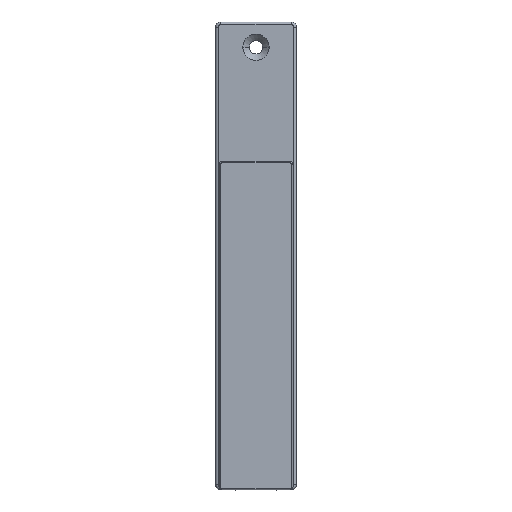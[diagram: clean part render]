
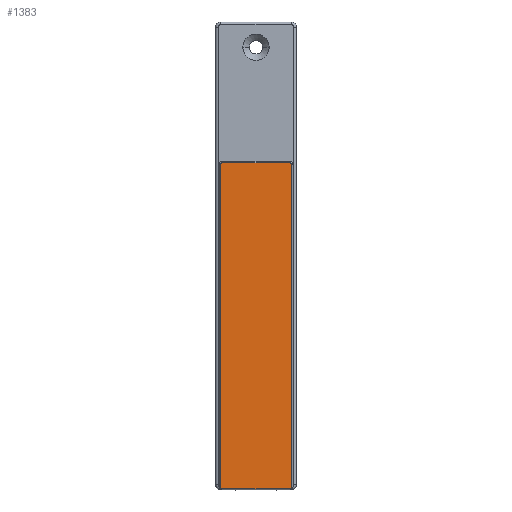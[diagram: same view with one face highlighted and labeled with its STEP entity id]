
A CAD part, top view. The second image highlights one B-rep face of the part: STEP entity #1383.
In plain terms, the highlighted planar face has unit normal (0, 0, 1) as drawn and (-1, 0, 0) by its records, which use the part's own axes.
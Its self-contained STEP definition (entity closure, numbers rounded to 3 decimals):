
#147 = CARTESIAN_POINT ( 'NONE',  ( -5., -107.5, 14. ) ) ;
#294 = CARTESIAN_POINT ( 'NONE',  ( -5., -108., 13.5 ) ) ;
#313 = CIRCLE ( 'NONE', #2254, 0.5 ) ;
#362 = CARTESIAN_POINT ( 'NONE',  ( -5., -107.5, 13.5 ) ) ;
#458 = CARTESIAN_POINT ( 'NONE',  ( -5., -107.5, -14. ) ) ;
#484 = CARTESIAN_POINT ( 'NONE',  ( -5., 20.5, 14. ) ) ;
#494 = ORIENTED_EDGE ( 'NONE', *, *, #3587, .T. ) ;
#760 = DIRECTION ( 'NONE',  ( -1., 0., 0. ) ) ;
#932 = DIRECTION ( 'NONE',  ( 0., 0., -1. ) ) ;
#1024 = DIRECTION ( 'NONE',  ( -1., 0., 0. ) ) ;
#1210 = EDGE_CURVE ( 'NONE', #9558, #6713, #9115, .T. ) ;
#1383 = ADVANCED_FACE ( 'NONE', ( #5962 ), #2985, .T. ) ;
#1576 = DIRECTION ( 'NONE',  ( 0., 1., 0. ) ) ;
#1666 = VERTEX_POINT ( 'NONE', #1767 ) ;
#1767 = CARTESIAN_POINT ( 'NONE',  ( -5., 20.5, -14. ) ) ;
#1769 = DIRECTION ( 'NONE',  ( 0., 0., 1. ) ) ;
#1915 = LINE ( 'NONE', #294, #2519 ) ;
#1982 = VECTOR ( 'NONE', #1576, 1000. ) ;
#2107 = CARTESIAN_POINT ( 'NONE',  ( -5., 20.5, -13.5 ) ) ;
#2254 = AXIS2_PLACEMENT_3D ( 'NONE', #6530, #9584, #4311 ) ;
#2394 = DIRECTION ( 'NONE',  ( 0., -1., 0. ) ) ;
#2519 = VECTOR ( 'NONE', #1769, 1000. ) ;
#2985 = PLANE ( 'NONE',  #7690 ) ;
#3587 = EDGE_CURVE ( 'NONE', #8740, #9558, #9384, .T. ) ;
#3895 = EDGE_LOOP ( 'NONE', ( #4570, #5396, #494, #5225, #4176, #6603, #4803, #5812 ) ) ;
#4060 = CARTESIAN_POINT ( 'NONE',  ( -5., 20.5, 14. ) ) ;
#4103 = EDGE_CURVE ( 'NONE', #4126, #4776, #1915, .T. ) ;
#4121 = LINE ( 'NONE', #6534, #4434 ) ;
#4126 = VERTEX_POINT ( 'NONE', #5709 ) ;
#4176 = ORIENTED_EDGE ( 'NONE', *, *, #4986, .T. ) ;
#4191 = CIRCLE ( 'NONE', #7080, 0.5 ) ;
#4311 = DIRECTION ( 'NONE',  ( 0., -1., 0. ) ) ;
#4434 = VECTOR ( 'NONE', #932, 1000. ) ;
#4522 = VERTEX_POINT ( 'NONE', #9555 ) ;
#4570 = ORIENTED_EDGE ( 'NONE', *, *, #4103, .T. ) ;
#4674 = VECTOR ( 'NONE', #9255, 1000. ) ;
#4776 = VERTEX_POINT ( 'NONE', #5077 ) ;
#4803 = ORIENTED_EDGE ( 'NONE', *, *, #9605, .T. ) ;
#4861 = DIRECTION ( 'NONE',  ( -1., 0., 0. ) ) ;
#4986 = EDGE_CURVE ( 'NONE', #6713, #4522, #4121, .T. ) ;
#5077 = CARTESIAN_POINT ( 'NONE',  ( -5., -108., 13.5 ) ) ;
#5225 = ORIENTED_EDGE ( 'NONE', *, *, #1210, .T. ) ;
#5396 = ORIENTED_EDGE ( 'NONE', *, *, #6041, .T. ) ;
#5709 = CARTESIAN_POINT ( 'NONE',  ( -5., -108., -13.5 ) ) ;
#5812 = ORIENTED_EDGE ( 'NONE', *, *, #6080, .T. ) ;
#5860 = DIRECTION ( 'NONE',  ( 0., -1., 0. ) ) ;
#5871 = DIRECTION ( 'NONE',  ( 0., -1., 0. ) ) ;
#5962 = FACE_OUTER_BOUND ( 'NONE', #3895, .T. ) ;
#6041 = EDGE_CURVE ( 'NONE', #4776, #8740, #4191, .T. ) ;
#6080 = EDGE_CURVE ( 'NONE', #6784, #4126, #313, .T. ) ;
#6530 = CARTESIAN_POINT ( 'NONE',  ( -5., -107.5, -13.5 ) ) ;
#6534 = CARTESIAN_POINT ( 'NONE',  ( -5., 21., -13.5 ) ) ;
#6603 = ORIENTED_EDGE ( 'NONE', *, *, #9153, .T. ) ;
#6706 = DIRECTION ( 'NONE',  ( -1., 0., 0. ) ) ;
#6713 = VERTEX_POINT ( 'NONE', #8591 ) ;
#6784 = VERTEX_POINT ( 'NONE', #458 ) ;
#6950 = CARTESIAN_POINT ( 'NONE',  ( -5., -107.5, -14. ) ) ;
#7080 = AXIS2_PLACEMENT_3D ( 'NONE', #362, #1024, #5871 ) ;
#7366 = AXIS2_PLACEMENT_3D ( 'NONE', #9569, #4861, #8767 ) ;
#7475 = CARTESIAN_POINT ( 'NONE',  ( -5., 0., 0. ) ) ;
#7550 = AXIS2_PLACEMENT_3D ( 'NONE', #2107, #760, #2394 ) ;
#7690 = AXIS2_PLACEMENT_3D ( 'NONE', #7475, #6706, #5860 ) ;
#8591 = CARTESIAN_POINT ( 'NONE',  ( -5., 21., 13.5 ) ) ;
#8606 = LINE ( 'NONE', #6950, #4674 ) ;
#8740 = VERTEX_POINT ( 'NONE', #147 ) ;
#8767 = DIRECTION ( 'NONE',  ( 0., -1., 0. ) ) ;
#9115 = CIRCLE ( 'NONE', #7366, 0.5 ) ;
#9153 = EDGE_CURVE ( 'NONE', #4522, #1666, #9307, .T. ) ;
#9255 = DIRECTION ( 'NONE',  ( 0., -1., 0. ) ) ;
#9307 = CIRCLE ( 'NONE', #7550, 0.5 ) ;
#9384 = LINE ( 'NONE', #4060, #1982 ) ;
#9555 = CARTESIAN_POINT ( 'NONE',  ( -5., 21., -13.5 ) ) ;
#9558 = VERTEX_POINT ( 'NONE', #484 ) ;
#9569 = CARTESIAN_POINT ( 'NONE',  ( -5., 20.5, 13.5 ) ) ;
#9584 = DIRECTION ( 'NONE',  ( -1., 0., 0. ) ) ;
#9605 = EDGE_CURVE ( 'NONE', #1666, #6784, #8606, .T. ) ;
